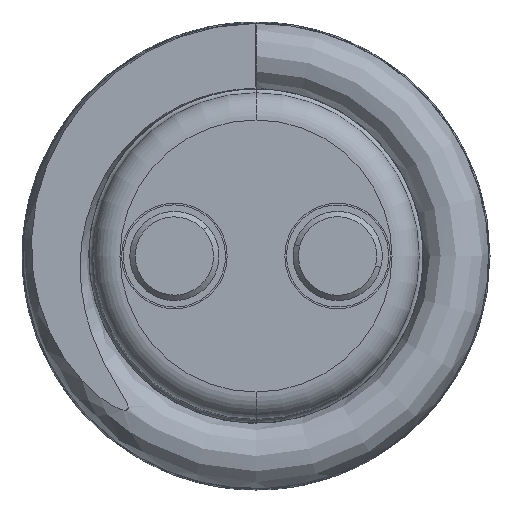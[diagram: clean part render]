
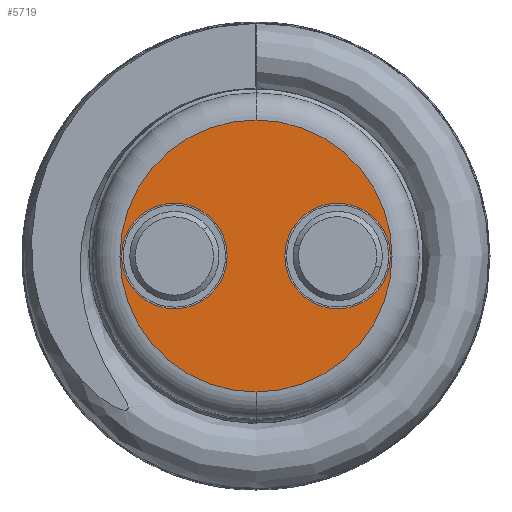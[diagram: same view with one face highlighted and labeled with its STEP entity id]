
A CAD part, front view. The second image highlights one B-rep face of the part: STEP entity #5719.
In plain terms, the highlighted planar face has unit normal (0, -1, 0).
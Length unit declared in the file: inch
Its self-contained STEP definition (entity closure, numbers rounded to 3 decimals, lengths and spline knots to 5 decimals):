
#23 = EDGE_CURVE ( 'NONE', #2304, #4730, #350, .T. ) ;
#44 = AXIS2_PLACEMENT_3D ( 'NONE', #6007, #5516, #3999 ) ;
#84 = VERTEX_POINT ( 'NONE', #1073 ) ;
#295 = FACE_BOUND ( 'NONE', #1872, .T. ) ;
#350 = CIRCLE ( 'NONE', #6168, 0.25 ) ;
#360 = VERTEX_POINT ( 'NONE', #1738 ) ;
#561 = ORIENTED_EDGE ( 'NONE', *, *, #5288, .T. ) ;
#731 = DIRECTION ( 'NONE',  ( 0., -1., 0. ) ) ;
#854 = ORIENTED_EDGE ( 'NONE', *, *, #1805, .F. ) ;
#903 = PLANE ( 'NONE',  #4380 ) ;
#1073 = CARTESIAN_POINT ( 'NONE',  ( -0.15, -0.535, -0.097 ) ) ;
#1162 = AXIS2_PLACEMENT_3D ( 'NONE', #5437, #5977, #4453 ) ;
#1391 = DIRECTION ( 'NONE',  ( 0., -1., 0. ) ) ;
#1448 = EDGE_LOOP ( 'NONE', ( #5558, #5718 ) ) ;
#1647 = AXIS2_PLACEMENT_3D ( 'NONE', #5152, #4666, #1667 ) ;
#1667 = DIRECTION ( 'NONE',  ( 0., 0., 1. ) ) ;
#1721 = DIRECTION ( 'NONE',  ( 0., 0., 1. ) ) ;
#1738 = CARTESIAN_POINT ( 'NONE',  ( 0.15, -0.535, -0.097 ) ) ;
#1805 = EDGE_CURVE ( 'NONE', #360, #3040, #5403, .T. ) ;
#1841 = VERTEX_POINT ( 'NONE', #2664 ) ;
#1872 = EDGE_LOOP ( 'NONE', ( #854, #6127 ) ) ;
#2267 = EDGE_CURVE ( 'NONE', #3040, #360, #3996, .T. ) ;
#2304 = VERTEX_POINT ( 'NONE', #3452 ) ;
#2359 = CARTESIAN_POINT ( 'NONE',  ( -0.15, -0.535, 0. ) ) ;
#2395 = CARTESIAN_POINT ( 'NONE',  ( 0., -0.535, 0. ) ) ;
#2537 = EDGE_LOOP ( 'NONE', ( #561, #5104 ) ) ;
#2664 = CARTESIAN_POINT ( 'NONE',  ( -0.15, -0.535, 0.097 ) ) ;
#2717 = EDGE_CURVE ( 'NONE', #1841, #84, #5870, .T. ) ;
#2894 = DIRECTION ( 'NONE',  ( 0., -1., 0. ) ) ;
#3040 = VERTEX_POINT ( 'NONE', #4196 ) ;
#3352 = DIRECTION ( 'NONE',  ( 0., 1., 0. ) ) ;
#3374 = DIRECTION ( 'NONE',  ( 0., 0., 1. ) ) ;
#3418 = CIRCLE ( 'NONE', #3723, 0.097 ) ;
#3452 = CARTESIAN_POINT ( 'NONE',  ( 0., -0.535, -0.25 ) ) ;
#3723 = AXIS2_PLACEMENT_3D ( 'NONE', #2359, #1391, #5306 ) ;
#3949 = FACE_BOUND ( 'NONE', #1448, .T. ) ;
#3996 = CIRCLE ( 'NONE', #44, 0.097 ) ;
#3999 = DIRECTION ( 'NONE',  ( 0., 0., 1. ) ) ;
#4179 = FACE_OUTER_BOUND ( 'NONE', #2537, .T. ) ;
#4196 = CARTESIAN_POINT ( 'NONE',  ( 0.15, -0.535, 0.097 ) ) ;
#4380 = AXIS2_PLACEMENT_3D ( 'NONE', #5365, #3352, #3374 ) ;
#4453 = DIRECTION ( 'NONE',  ( 0., 0., -1. ) ) ;
#4666 = DIRECTION ( 'NONE',  ( 0., -1., 0. ) ) ;
#4730 = VERTEX_POINT ( 'NONE', #5362 ) ;
#5104 = ORIENTED_EDGE ( 'NONE', *, *, #23, .T. ) ;
#5152 = CARTESIAN_POINT ( 'NONE',  ( 0.15, -0.535, 0. ) ) ;
#5288 = EDGE_CURVE ( 'NONE', #4730, #2304, #5587, .T. ) ;
#5306 = DIRECTION ( 'NONE',  ( 0., 0., -1. ) ) ;
#5362 = CARTESIAN_POINT ( 'NONE',  ( 0., -0.535, 0.25 ) ) ;
#5365 = CARTESIAN_POINT ( 'NONE',  ( 0., -0.535, 0. ) ) ;
#5403 = CIRCLE ( 'NONE', #1647, 0.097 ) ;
#5437 = CARTESIAN_POINT ( 'NONE',  ( -0.15, -0.535, 0. ) ) ;
#5516 = DIRECTION ( 'NONE',  ( 0., -1., 0. ) ) ;
#5558 = ORIENTED_EDGE ( 'NONE', *, *, #5696, .F. ) ;
#5587 = CIRCLE ( 'NONE', #6183, 0.25 ) ;
#5696 = EDGE_CURVE ( 'NONE', #84, #1841, #3418, .T. ) ;
#5718 = ORIENTED_EDGE ( 'NONE', *, *, #2717, .F. ) ;
#5719 = ADVANCED_FACE ( 'NONE', ( #4179, #295, #3949 ), #903, .F. ) ;
#5870 = CIRCLE ( 'NONE', #1162, 0.097 ) ;
#5977 = DIRECTION ( 'NONE',  ( 0., -1., 0. ) ) ;
#6007 = CARTESIAN_POINT ( 'NONE',  ( 0.15, -0.535, 0. ) ) ;
#6127 = ORIENTED_EDGE ( 'NONE', *, *, #2267, .F. ) ;
#6168 = AXIS2_PLACEMENT_3D ( 'NONE', #6191, #731, #1721 ) ;
#6183 = AXIS2_PLACEMENT_3D ( 'NONE', #2395, #2894, #6416 ) ;
#6191 = CARTESIAN_POINT ( 'NONE',  ( 0., -0.535, 0. ) ) ;
#6416 = DIRECTION ( 'NONE',  ( 0., 0., 1. ) ) ;
